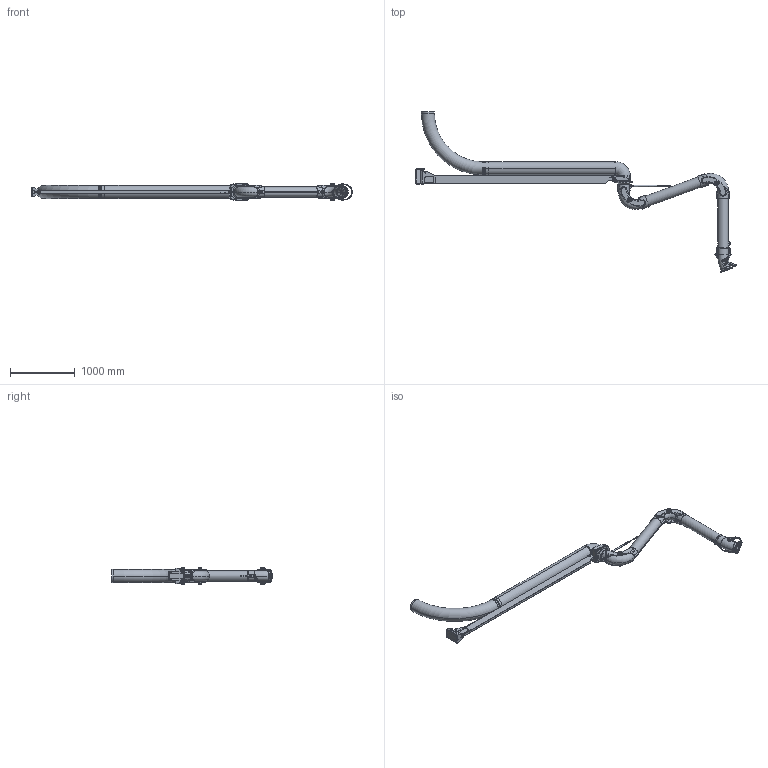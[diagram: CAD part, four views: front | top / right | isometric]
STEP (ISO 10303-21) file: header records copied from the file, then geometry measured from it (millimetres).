
FILE_DESCRIPTION((''),'2;1');
FILE_NAME('138794','2019-03-11T11:14:33',('Gustav Stenberg'),(''),'CREO PARAMETRIC BY PTC INC, 2018260','CREO PARAMETRIC BY PTC INC, 2018260','');
FILE_SCHEMA(('AUTOMOTIVE_DESIGN { 1 0 10303 214 1 1 1 1 }'));
Length unit declared in the file: millimetre
Products named in the file (64): 136203; 136204; 136205; G_PR_TUBE_WALL; 100-6302-02; 100-6302-05; 100-6305-2; 100-6302; 100-6308-1; 100-6308-2; 100-6308-3; 100-6308; 100-6308-7; 100-6308-05; 100-6308-4; 100-6308_RENAME; 138777; LIGHT_SWIVEL_160_AF1; 126194_AF0; G_PRX_SVIVEL_SPRINGMOUNT; 138752_AF0; 124030; 124031; 105-5481_1; 101156_1; 124035_AF6; 124035_AF7; 124035_AF9; 124035_AF8; 124884; 124893; 124866; 125076; 124874; 124950; 126055_AF20; 124963_AF1; 142700; 142473; 199-808-160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
Assembly tree (82 placements, depth 6):
  138794
    136205
      136203
      136204
    138777
      100-6302
        G_PR_TUBE_WALL
        100-6302-02  x2
        100-6302-05
        100-6305-2
      100-6308_RENAME
        100-6308
          100-6308-1
          100-6308-2
          100-6308-3
        100-6308-4
          100-6308-7
          100-6308-05
    124974_AF0
      138752_AF0
        126194_AF0
          LIGHT_SWIVEL_160_AF1
        G_PRX_SVIVEL_SPRINGMOUNT
      124035_AF6
        124030
        124031
        101156_1
          105-5481_1
      124035_AF7
        124030
        124031
        101156_1
          105-5481_1
      124963_AF1
        124035_AF9
          124030
          124031
          101156_1
            105-5481_1
        124035_AF8
          124030
          124031
          101156_1
            105-5481_1
        124884
        124950
          124893
          124874
            124866
            125076
        126055_AF20
      142481_AF0
        142700  x2
        142473  x2
        142858
          199-808-160
          142440
          142441
          142491
        128231
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Bounding box: 4937.28 x 2475.77 x 260.21 mm (x, y, z)
Volume: 27679113.4 mm3; surface area: 10779984.8 mm2
Topology: 60 solids, 60 shells, 1469 faces, 3627 edges, 2363 vertices
Faces by surface type: cylinder 570, plane 565, cone 136, bspline 110, torus 64, sphere 24
Entity records: 51938 total; most frequent: CARTESIAN_POINT 12625, DIRECTION 5812, ORIENTED_EDGE 5094, PRESENTATION_STYLE_ASSIGNMENT 2578, STYLED_ITEM 2578, EDGE_CURVE 2547, AXIS2_PLACEMENT_3D 2247, CURVE_STYLE 1943
